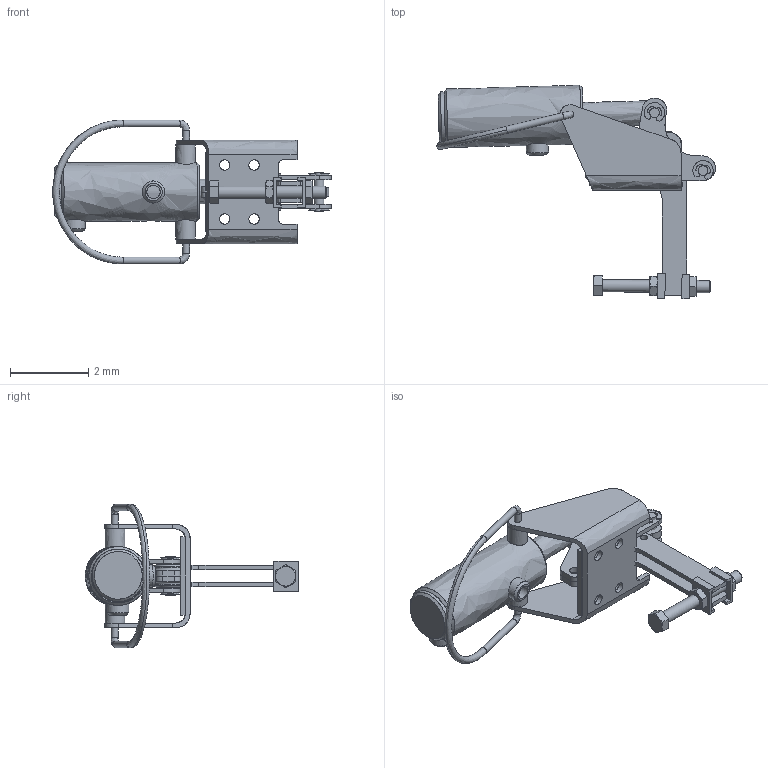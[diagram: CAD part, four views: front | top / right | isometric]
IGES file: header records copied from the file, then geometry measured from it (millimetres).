
Start section:  Autodesk DirectConnect version 7.0.27.0 ---- IGES version 5.3
Global section: file name: C:\Users\Nick\Desktop\AOV-201\3D\AOV-201.igs; native system: Autodesk DirectConnect 7.0.27.0; preprocessor: 7.0.27.0; author: Nick; organization: Unknown; date: 20150522.124039; units: millimetre
Bounding box: 7.1 x 5.44 x 3.67 mm (x, y, z)
Surface area: 142.6 mm2 (no closed solid volume)
Topology: 0 solids, 0 shells, 442 faces, 3427 edges, 3412 vertices
Faces by surface type: bspline 442
